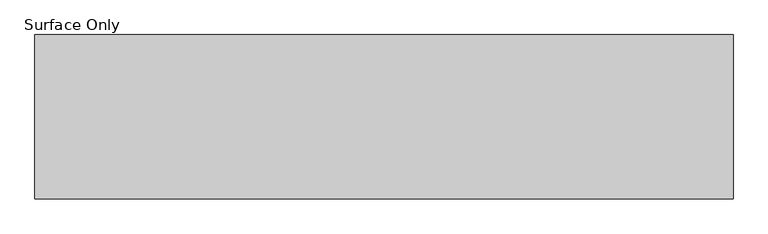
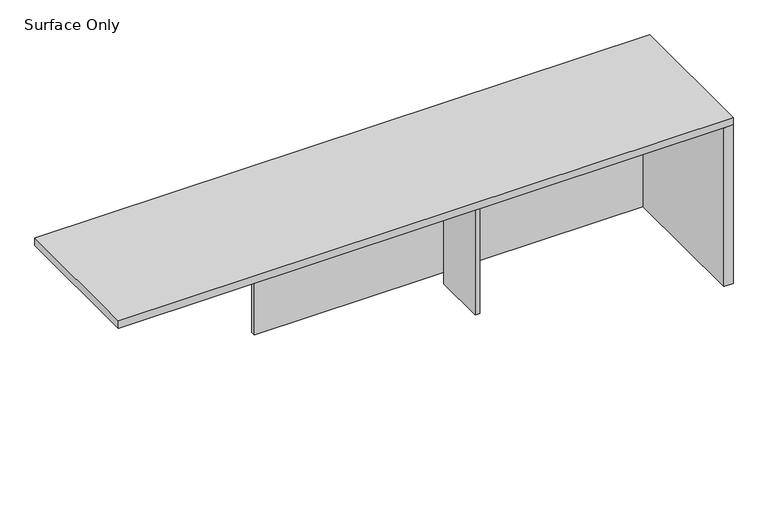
"""IFC4 building model written with IfcOpenShell, lengths in millimetres: furniture geometry, Haworth_Masters_Modular_Shell : Surface Only."""

from ifc_helpers import new_model, si_unit, frame, origin, origin_with_axes, place, context, project, spatial, polyline, outline, extrude, source, transform, mapped, element, save


def surface_only_f9202071(model_context):
    return source(origin(), model_context, "Body", "SweptSolid", [
        extrude(outline(polyline([(1138.2375, -336.55), (1138.2375, -565.15), (1119.1875, -565.15), (1119.1875, -336.55), (1138.2375, -336.55)])), origin_with_axes(), (0.0, 0.0, 1.0), 708.025),
        extrude(outline(polyline([(2033.5875, -273.05), (2033.5875, -863.6), (1994.69375, -863.6), (1994.69375, -273.05), (2033.5875, -273.05)])), origin_with_axes(), (0.0, 0.0, 1.0), 708.025),
        extrude(outline(polyline([(2033.5875, -254.0), (2033.5875, -273.05), (357.1875, -273.05), (357.1875, -254.0), (2033.5875, -254.0)])), origin_with_axes(), (0.0, 0.0, 1.0), 708.025),
        extrude(outline(polyline([(-557.2125, -254.0), (2033.5875, -254.0), (2033.5875, -863.6), (-557.2125, -863.6), (-557.2125, -254.0)])), frame((0.0, 0.0, 708.025), z_axis=(0.0, 0.0, 1.0), x_axis=(1.0, 0.0, 0.0)), (0.0, 0.0, 1.0), 31.75),
    ])


if __name__ == "__main__":
    model = new_model("IFC4")
    model_context = context("Model", 3, world=origin())
    ifc_project = project(units=[si_unit("LENGTHUNIT", "METRE", prefix="MILLI")], contexts=[model_context])
    site = spatial("IfcSite", under=ifc_project)
    building = spatial("IfcBuilding", under=site)
    placement = place(None, origin())
    surface_only_shape = surface_only_f9202071(model_context)
    element("IfcFurniture", 1, ObjectType="Haworth_Masters_Modular_Shell : Surface Only", at=placement, inside=building, context=model_context, shape_type="MappedRepresentation", body=[
        mapped(surface_only_shape, transform((0.0, 0.0, 0.0), x_axis=(1.0, 0.0, 0.0), y_axis=(0.0, 1.0, 0.0), z_axis=(0.0, 0.0, 1.0))),
    ])
    save(model, "model.ifc")
